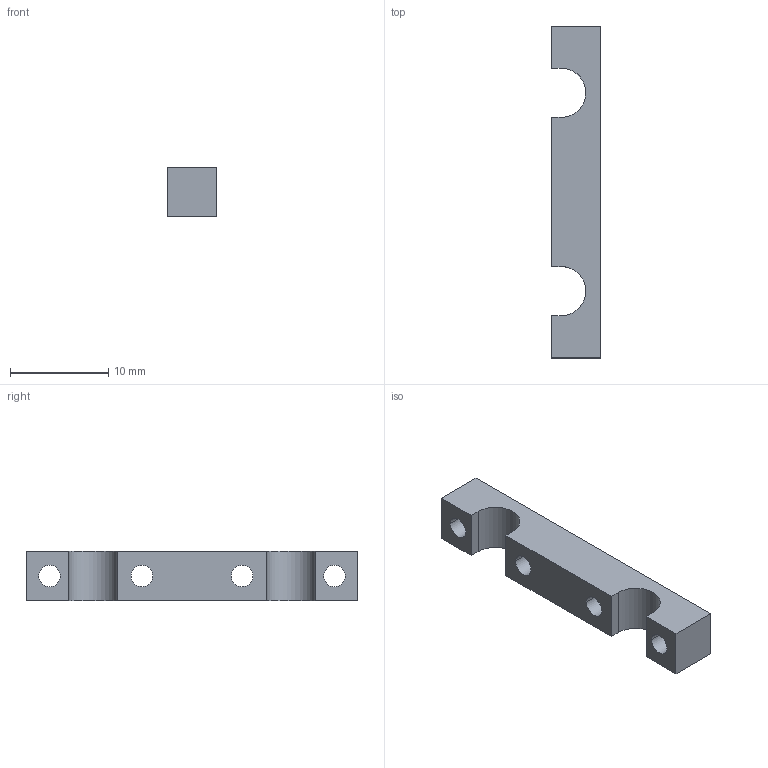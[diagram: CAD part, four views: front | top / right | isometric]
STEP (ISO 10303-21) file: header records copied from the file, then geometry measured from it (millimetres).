
FILE_DESCRIPTION(/* description */ ('(C) Elphel, Inc. 2012. Licensed under CERN OHL v.1.1 or later, see http://ohwr.org/cernohl'),/* implementation_level */ '2;1');
FILE_NAME(/* name */ '0353-24-04',/* time_stamp */ '2012-12-05T21:57:59-07:00',/* author */ (''),/* organization */ ('Elphel, Inc'),/* preprocessor_version */ 'ST-DEVELOPER v12',/* originating_system */ 'VariCAD 2012-1.04; kernel version (20100102)',/* authorisation */ '');
FILE_SCHEMA (('CONFIG_CONTROL_DESIGN'));
Length unit declared in the file: millimetre
Products named in the file (1): Part
Bounding box: 5 x 33.8 x 5 mm (x, y, z)
Volume: 550.7 mm3; surface area: 868.3 mm2
Topology: 1 solids, 1 shells, 34 faces, 84 edges, 56 vertices
Faces by surface type: cylinder 18, plane 16
Entity records: 1086 total; most frequent: DIRECTION 192, CARTESIAN_POINT 176, ORIENTED_EDGE 168, EDGE_CURVE 84, AXIS2_PLACEMENT_3D 72, VERTEX_POINT 56, LINE 48, VECTOR 48
